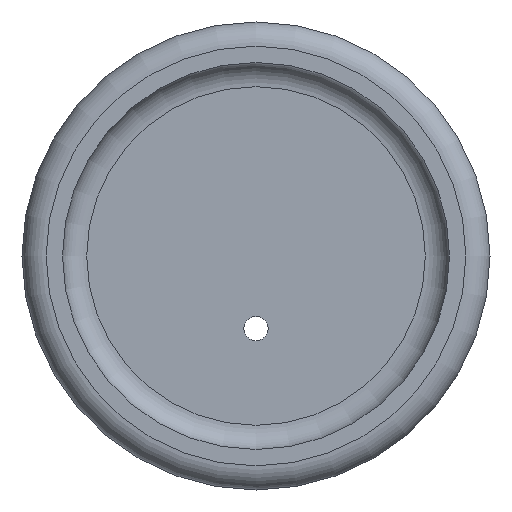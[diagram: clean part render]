
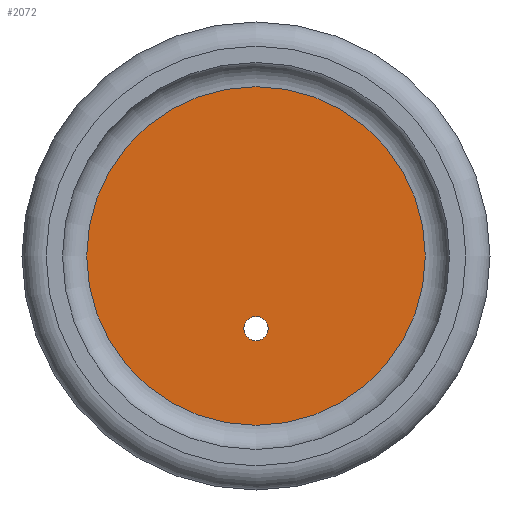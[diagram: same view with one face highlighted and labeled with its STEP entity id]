
A CAD part, left-side view. The second image highlights one B-rep face of the part: STEP entity #2072.
In plain terms, the highlighted planar face has unit normal (-1, 0, 0).
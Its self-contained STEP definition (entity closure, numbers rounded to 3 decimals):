
#27=CARTESIAN_POINT('',(109.5,0.,14.));
#28=VERTEX_POINT('',#27);
#36=CARTESIAN_POINT('',(109.5,0.,0.));
#37=DIRECTION('',(0.,0.,1.));
#38=DIRECTION('',(1.,0.,0.));
#39=AXIS2_PLACEMENT_3D('',#36,#38,#37);
#40=CIRCLE('',#39,14.);
#41=EDGE_CURVE('',#28,#28,#40,.T.);
#2053=CARTESIAN_POINT('',(109.5,0.,0.));
#2054=DIRECTION('',(0.,0.,1.));
#2055=DIRECTION('',(-1.,0.,0.));
#2056=AXIS2_PLACEMENT_3D('',#2053,#2055,#2054);
#2057=PLANE('',#2056);
#2058=ORIENTED_EDGE('',*,*,#41,.F.);
#2059=EDGE_LOOP('',(#2058));
#2060=FACE_OUTER_BOUND('',#2059,.T.);
#2061=CARTESIAN_POINT('',(109.5,0.,-7.));
#2062=VERTEX_POINT('',#2061);
#2063=CARTESIAN_POINT('',(109.5,0.,-6.));
#2064=DIRECTION('',(0.,0.,-1.));
#2065=DIRECTION('',(-1.,0.,0.));
#2066=AXIS2_PLACEMENT_3D('',#2063,#2065,#2064);
#2067=CIRCLE('',#2066,1.);
#2068=EDGE_CURVE('',#2062,#2062,#2067,.T.);
#2069=ORIENTED_EDGE('E334',*,*,#2068,.F.);
#2070=EDGE_LOOP('',(#2069));
#2071=FACE_BOUND('',#2070,.T.);
#2072=ADVANCED_FACE('F67',(#2060,#2071),#2057,.T.);
